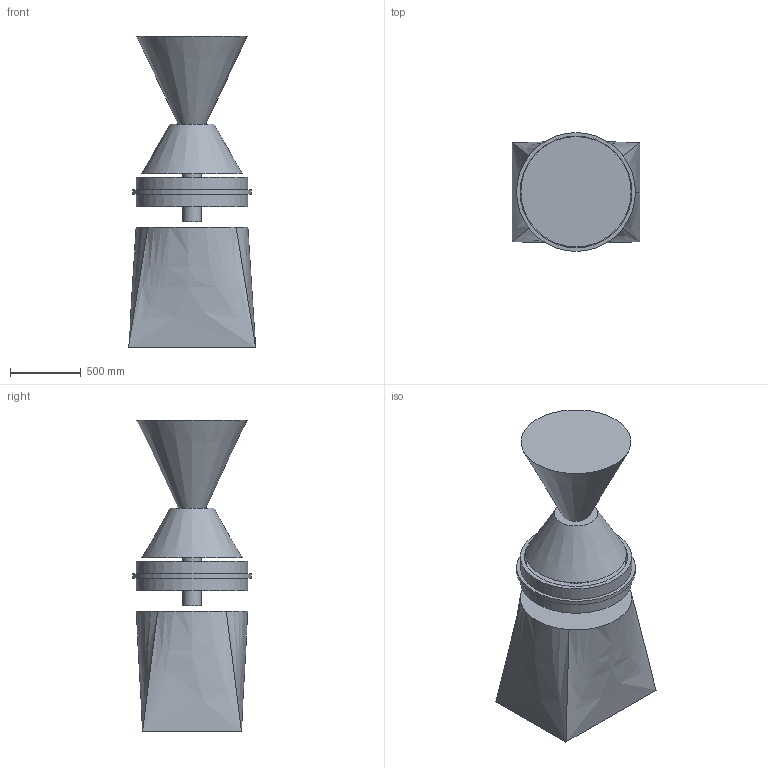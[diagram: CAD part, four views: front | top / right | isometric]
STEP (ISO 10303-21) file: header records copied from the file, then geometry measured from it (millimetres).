
FILE_DESCRIPTION(('Open CASCADE Model'),'2;1');
FILE_NAME('Open CASCADE Shape Model','2026-09-10T08:38:49',('Author'),( 'Open CASCADE'),'Open CASCADE STEP processor 7.9','Open CASCADE 7.9' ,'Unknown');
FILE_SCHEMA(('AUTOMOTIVE_DESIGN { 1 0 10303 214 1 1 1 1 }'));
Length unit declared in the file: millimetre
Products named in the file (11): wrde-air; housing; intake-disk; exhaust-disk; support-carrier--80; support-carrier-80; central-drive-envelope; fuel-manifold; air-inlet-envelope; collector-envelope; variable-nozzle-envelope
Assembly tree (10 placements, depth 2):
  wrde-air
    housing
    intake-disk
    exhaust-disk
    support-carrier--80
    support-carrier-80
    central-drive-envelope
    fuel-manifold
    air-inlet-envelope
    collector-envelope
    variable-nozzle-envelope
Bounding box: 900 x 840 x 2200 mm (x, y, z)
Volume: 731719961.7 mm3; surface area: 10178605.2 mm2
Topology: 10 solids, 10 shells, 44 faces, 66 edges, 44 vertices
Faces by surface type: plane 22, cylinder 15, bspline 5, cone 2
Full cylindrical faces by diameter (mm): 130 x1, 160 x2, 180 x2, 480 x2, 496 x2, 700 x2, 730 x1, 790 x2, 840 x1
Entity records: 2198 total; most frequent: CARTESIAN_POINT 398, DIRECTION 327, ORIENTED_EDGE 132, PCURVE 132, DEFINITIONAL_REPRESENTATION 132, LINE 110, VECTOR 110, AXIS2_PLACEMENT_3D 89
